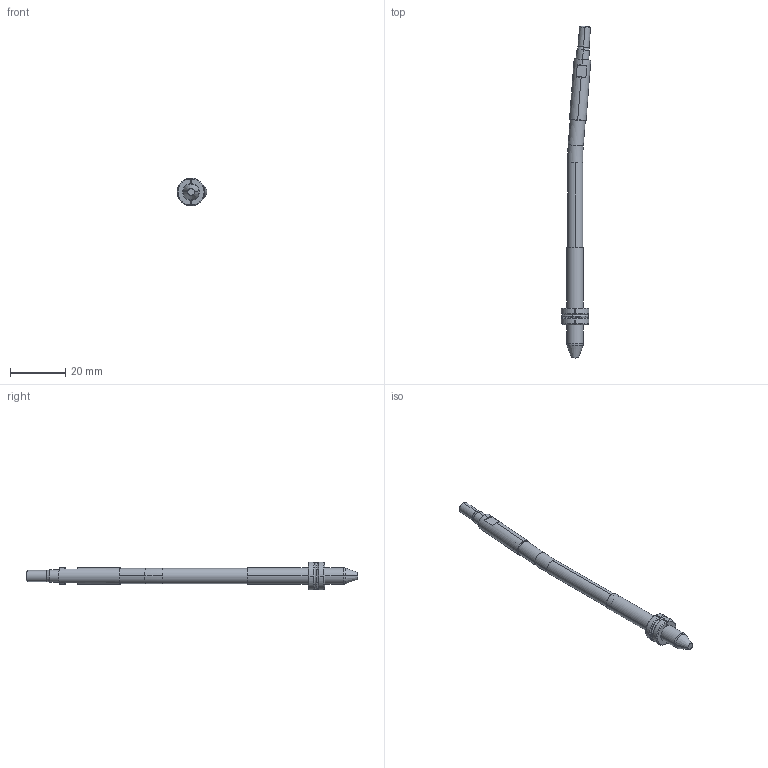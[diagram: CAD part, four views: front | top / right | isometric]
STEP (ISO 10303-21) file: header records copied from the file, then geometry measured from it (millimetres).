
FILE_DESCRIPTION (( 'STEP AP214' ), '1' );
FILE_NAME ('WP060030-INJ 4,5°.STEP', '2021-03-19T15:11:28', ( '' ), ( '' ), 'SwSTEP 2.0', 'SolidWorks 2019', '' );
FILE_SCHEMA (( 'AUTOMOTIVE_DESIGN' ));
Length unit declared in the file: millimetre
Products named in the file (6): WEB-002-9WP060030-2; WEB-006-9WP060030-6; WP060030-INJ 4,5°; WEB-007-9WP060030-F_WP060030-F-OFF 4,5ø; WEB-008-JUNTA-JT7X1X9; WEB-001-9WP060030-1
Assembly tree (5 placements, depth 2):
  WP060030-INJ 4,5°
    WEB-001-9WP060030-1
    WEB-007-9WP060030-F_WP060030-F-OFF 4,5ø
    WEB-002-9WP060030-2
    WEB-006-9WP060030-6
    WEB-008-JUNTA-JT7X1X9
Bounding box: 10.68 x 119.79 x 9.99 mm (x, y, z)
Volume: 3174 mm3; surface area: 2920.6 mm2
Topology: 6 solids, 6 shells, 112 faces, 262 edges, 164 vertices
Faces by surface type: cylinder 36, cone 28, plane 28, torus 20
Entity records: 3723 total; most frequent: CARTESIAN_POINT 714, DIRECTION 598, ORIENTED_EDGE 524, EDGE_CURVE 262, AXIS2_PLACEMENT_3D 256, VERTEX_POINT 164, CIRCLE 136, EDGE_LOOP 116
